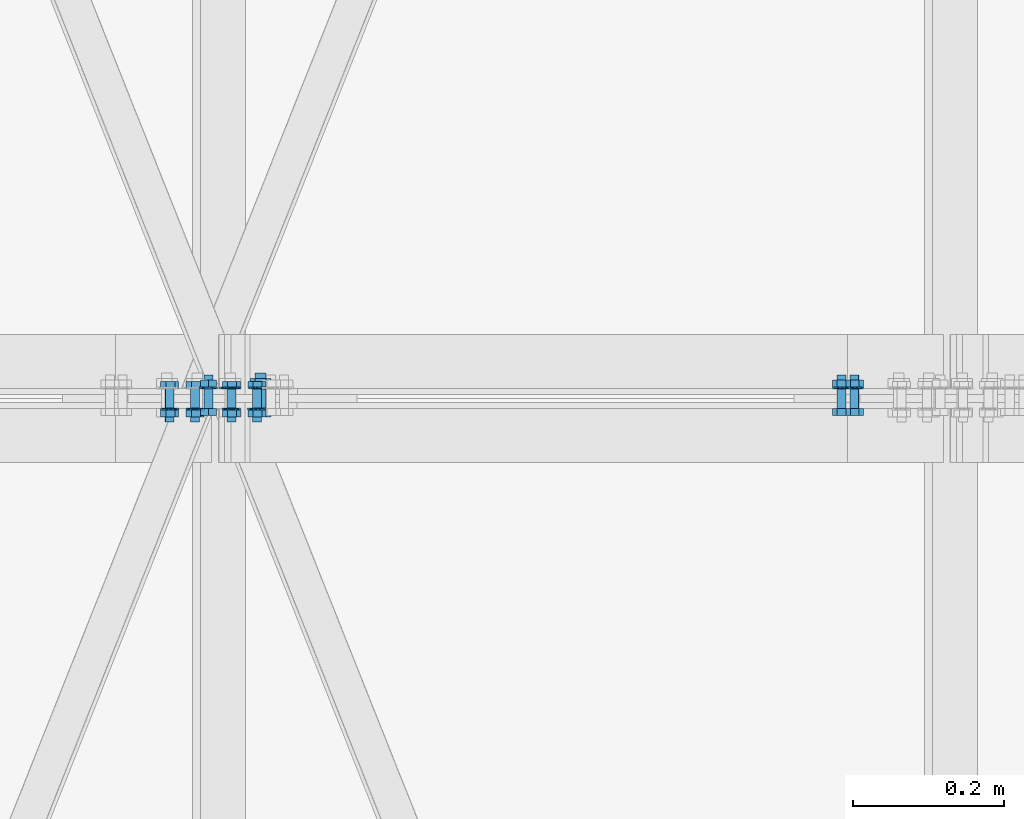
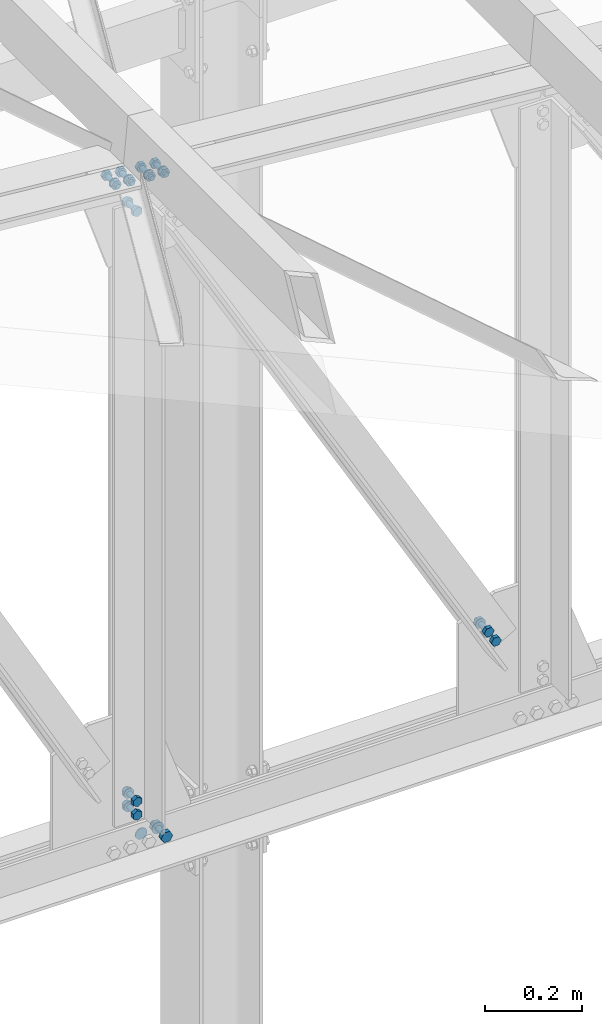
# One storey, part 147 of 251: 40 mechanical fasteners.
"""IFC4 building model written with IfcOpenShell, lengths in metres."""

from ifc_helpers import new_model, si_unit, frame, origin_with_axes, place, context, project, spatial, polyline, outline, extrude, type_object, element, save


model = new_model("IFC4")

# Units and contexts
model_context = context("Model", 3, precision=1e-05, world=origin_with_axes())
ifc_project = project(units=[si_unit("LENGTHUNIT", "METRE"), si_unit("AREAUNIT", "SQUARE_METRE"), si_unit("VOLUMEUNIT", "CUBIC_METRE"), si_unit("MASSUNIT", "GRAM", prefix="KILO"), si_unit("TIMEUNIT", "SECOND"), si_unit("PLANEANGLEUNIT", "RADIAN"), si_unit("SOLIDANGLEUNIT", "STERADIAN"), si_unit("THERMODYNAMICTEMPERATUREUNIT", "DEGREE_CELSIUS")], contexts=[model_context])

# Site, building, storey
placement_1 = place(None, origin_with_axes())
site = spatial("IfcSite", under=ifc_project, at=placement_1, Name="Italia", CompositionType="ELEMENT")
building = spatial("IfcBuilding", under=site, at=placement_1, Name="Deposito", CompositionType="ELEMENT")
storey = spatial("IfcBuildingStorey", under=building, at=placement_1, Name="Storey 0", CompositionType="ELEMENT", Elevation=0.0)

# Mechanical fasteners
mechanical_fastener_type_1 = type_object("IfcMechanicalFastenerType", Name="Reticolare 5", PredefinedType="BOLT")
placement_2 = place(placement_1, origin_with_axes())
mechanical_fastener_1_placement = place(placement_2, origin_with_axes())
element("IfcMechanicalFastener", 1, at=mechanical_fastener_1_placement, inside=storey, type_object=mechanical_fastener_type_1, Name="Reticolare 5", NominalDiameter=0.028, context=model_context, shape_type="SweptSolid", body=[
    extrude(outline(polyline([(0.0, 0.0), (-0.000476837, -0.00362349), (-0.00187588, -0.00699997), (-0.0041008, -0.00989962), (-0.00699997, -0.0121245), (-0.0103769, -0.0135231), (-0.0139999, -0.0139999), (-0.0176229, -0.0135231), (-0.0209999, -0.0121245), (-0.0238991, -0.00989962), (-0.026124, -0.00699997), (-0.027523, -0.00362349), (-0.0279999, 0.0), (-0.027523, 0.00362349), (-0.026124, 0.00699997), (-0.0238991, 0.00989962), (-0.0209999, 0.0121245), (-0.0176229, 0.0135231), (-0.0139999, 0.0139999), (-0.0103769, 0.0135231), (-0.00699997, 0.0121245), (-0.0041008, 0.00989962), (-0.00187588, 0.00699997), (-0.000476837, 0.00362349), (0.0, 0.0)])), frame((12.0664, 15.015, 5.009), z_axis=(0.0, -1.0, 0.0), x_axis=(1.0, 0.0, 0.0)), (0.0, 0.0, 1.0), 0.00200081),
])
mechanical_fastener_type_2 = type_object("IfcMechanicalFastenerType", Name="Reticolare 5", PredefinedType="BOLT")
mechanical_fastener_2_placement = place(placement_2, origin_with_axes())
element("IfcMechanicalFastener", 2, at=mechanical_fastener_2_placement, inside=storey, type_object=mechanical_fastener_type_2, Name="Reticolare 5", NominalDiameter=0.0139997, context=model_context, shape_type="SweptSolid", body=[
    extrude(outline(polyline([(0.0, 0.0), (-0.0139999, 0.0), (-0.0209999, 0.0121241), (-0.0139999, 0.0242486), (0.0, 0.0242486), (0.00699997, 0.0121241), (0.0, 0.0)])), frame((12.0994, 14.987, 4.99688), z_axis=(0.0, -1.0, 0.0), x_axis=(1.0, 0.0, 0.0)), (0.0, 0.0, 1.0), 0.0112009),
])
mechanical_fastener_type_3 = type_object("IfcMechanicalFastenerType", Name="Reticolare 5", PredefinedType="BOLT")
mechanical_fastener_3_placement = place(placement_2, origin_with_axes())
element("IfcMechanicalFastener", 3, at=mechanical_fastener_3_placement, inside=storey, type_object=mechanical_fastener_type_3, Name="Reticolare 5", NominalDiameter=0.014, context=model_context, shape_type="SweptSolid", body=[
    extrude(outline(polyline([(0.0, 0.0), (-0.000238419, -0.0018115), (-0.000937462, -0.00349998), (-0.0020504, -0.00494957), (-0.00349998, -0.00606203), (-0.00518799, -0.00676155), (-0.00699997, -0.00699997), (-0.00881195, -0.00676155), (-0.0105, -0.00606203), (-0.0119495, -0.00494957), (-0.0130625, -0.00349998), (-0.0137615, -0.0018115), (-0.0139999, 0.0), (-0.0137615, 0.0018115), (-0.0130625, 0.00349998), (-0.0119495, 0.00494957), (-0.0105, 0.00606203), (-0.00881195, 0.00676155), (-0.00699997, 0.00699997), (-0.00518799, 0.00676155), (-0.00349998, 0.00606203), (-0.0020504, 0.00494957), (-0.000937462, 0.00349998), (-0.000238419, 0.0018115), (0.0, 0.0)])), frame((12.0994, 15.034, 5.009), z_axis=(0.0, -1.0, 0.0), x_axis=(1.0, 0.0, 0.0)), (0.0, 0.0, 1.0), 0.0469999),
])
mechanical_fastener_type_4 = type_object("IfcMechanicalFastenerType", Name="Reticolare 5", PredefinedType="BOLT")
mechanical_fastener_4_placement = place(placement_2, origin_with_axes())
element("IfcMechanicalFastener", 4, at=mechanical_fastener_4_placement, inside=storey, type_object=mechanical_fastener_type_4, Name="Reticolare 5", NominalDiameter=0.0139997, context=model_context, shape_type="SweptSolid", body=[
    extrude(outline(polyline([(0.0, 0.0), (-0.0139999, 0.0), (-0.0209999, 0.0121241), (-0.0139999, 0.0242486), (0.0, 0.0242486), (0.00699997, 0.0121241), (0.0, 0.0)])), frame((12.0994, 15.0262, 4.99688), z_axis=(0.0, -1.0, 0.0), x_axis=(1.0, 0.0, 0.0)), (0.0, 0.0, 1.0), 0.0112),
])
mechanical_fastener_type_5 = type_object("IfcMechanicalFastenerType", Name="Reticolare 5", PredefinedType="BOLT")
mechanical_fastener_5_placement = place(placement_2, origin_with_axes())
element("IfcMechanicalFastener", 5, at=mechanical_fastener_5_placement, inside=storey, type_object=mechanical_fastener_type_5, Name="Reticolare 5", NominalDiameter=0.028, context=model_context, shape_type="SweptSolid", body=[
    extrude(outline(polyline([(0.0, 0.0), (-0.000476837, -0.00362349), (-0.00187588, -0.00699997), (-0.0041008, -0.00989962), (-0.00699997, -0.0121245), (-0.0103769, -0.0135231), (-0.0139999, -0.0139999), (-0.0176229, -0.0135231), (-0.0209999, -0.0121245), (-0.0238991, -0.00989962), (-0.026124, -0.00699997), (-0.027523, -0.00362349), (-0.0279999, 0.0), (-0.027523, 0.00362349), (-0.026124, 0.00699997), (-0.0238991, 0.00989962), (-0.0209999, 0.0121245), (-0.0176229, 0.0135231), (-0.0139999, 0.0139999), (-0.0103769, 0.0135231), (-0.00699997, 0.0121245), (-0.0041008, 0.00989962), (-0.00187588, 0.00699997), (-0.000476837, 0.00362349), (0.0, 0.0)])), frame((12.1064, 15.015, 5.009), z_axis=(0.0, -1.0, 0.0), x_axis=(1.0, 0.0, 0.0)), (0.0, 0.0, 1.0), 0.00200081),
])
mechanical_fastener_type_6 = type_object("IfcMechanicalFastenerType", Name="Reticolare 5", PredefinedType="BOLT")
mechanical_fastener_6_placement = place(placement_2, origin_with_axes())
element("IfcMechanicalFastener", 6, at=mechanical_fastener_6_placement, inside=storey, type_object=mechanical_fastener_type_6, Name="Reticolare 5", NominalDiameter=0.0119999, context=model_context, shape_type="SweptSolid", body=[
    extrude(outline(polyline([(0.0, 0.0), (0.0, -0.0120001), (-0.0103922, -0.0180001), (-0.0207844, -0.0120001), (-0.0207844, 0.0), (-0.0103922, 0.00600004), (0.0, 0.0)])), frame((12.0338, 14.987, 5.09253), z_axis=(0.0, -1.0, 0.0), x_axis=(1.0, 0.0, 0.0)), (0.0, 0.0, 1.0), 0.00960064),
])
mechanical_fastener_type_7 = type_object("IfcMechanicalFastenerType", Name="Reticolare 5", PredefinedType="BOLT")
mechanical_fastener_7_placement = place(placement_2, origin_with_axes())
element("IfcMechanicalFastener", 7, at=mechanical_fastener_7_placement, inside=storey, type_object=mechanical_fastener_type_7, Name="Reticolare 5", NominalDiameter=0.012, context=model_context, shape_type="SweptSolid", body=[
    extrude(outline(polyline([(0.0, 0.0), (-0.000204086, -0.00155306), (-0.000802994, -0.00299978), (-0.00175667, -0.00424242), (-0.00299931, -0.00519609), (-0.00444698, -0.00579548), (-0.00599957, -0.00600004), (-0.00755215, -0.00579548), (-0.00899982, -0.00519609), (-0.0102425, -0.00424242), (-0.0111961, -0.00299978), (-0.011795, -0.00155306), (-0.0119991, 0.0), (-0.011795, 0.00155306), (-0.0111961, 0.00299978), (-0.0102425, 0.00424242), (-0.00899982, 0.00519609), (-0.00755215, 0.00579548), (-0.00599957, 0.00600004), (-0.00444698, 0.00579548), (-0.00299931, 0.00519609), (-0.00175667, 0.00424242), (-0.000802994, 0.00299978), (-0.000204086, 0.00155306), (0.0, 0.0)])), frame((12.0294, 15.031, 5.08653), z_axis=(0.0, -1.0, 0.0), x_axis=(1.0, 0.0, 0.0)), (0.0, 0.0, 1.0), 0.0439997),
])
mechanical_fastener_type_8 = type_object("IfcMechanicalFastenerType", Name="Reticolare 5", PredefinedType="BOLT")
mechanical_fastener_8_placement = place(placement_2, origin_with_axes())
element("IfcMechanicalFastener", 8, at=mechanical_fastener_8_placement, inside=storey, type_object=mechanical_fastener_type_8, Name="Reticolare 5", NominalDiameter=0.0119999, context=model_context, shape_type="SweptSolid", body=[
    extrude(outline(polyline([(0.0, 0.0), (0.0, -0.0120001), (-0.0103922, -0.0180001), (-0.0207844, -0.0120001), (-0.0207844, 0.0), (-0.0103922, 0.00600004), (0.0, 0.0)])), frame((12.0338, 15.0246, 5.09253), z_axis=(0.0, -1.0, 0.0), x_axis=(1.0, 0.0, 0.0)), (0.0, 0.0, 1.0), 0.00959969),
])
mechanical_fastener_type_9 = type_object("IfcMechanicalFastenerType", Name="Reticolare 5", PredefinedType="BOLT")
mechanical_fastener_9_placement = place(placement_2, origin_with_axes())
element("IfcMechanicalFastener", 9, at=mechanical_fastener_9_placement, inside=storey, type_object=mechanical_fastener_type_9, Name="Reticolare 5", NominalDiameter=0.024, context=model_context, shape_type="SweptSolid", body=[
    extrude(outline(polyline([(0.0, 0.0), (-0.000409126, -0.00310564), (-0.00160789, -0.00600004), (-0.00351524, -0.00848532), (-0.00600052, -0.0103922), (-0.00889397, -0.011591), (-0.0120001, -0.0120001), (-0.0151062, -0.011591), (-0.0179996, -0.0103922), (-0.0204849, -0.00848532), (-0.0223923, -0.00600004), (-0.023591, -0.00310564), (-0.0240002, 0.0), (-0.023591, 0.00310564), (-0.0223923, 0.00600004), (-0.0204849, 0.00848532), (-0.0179996, 0.0103922), (-0.0151062, 0.011591), (-0.0120001, 0.0120001), (-0.00889397, 0.011591), (-0.00600052, 0.0103922), (-0.00351524, 0.00848532), (-0.00160789, 0.00600004), (-0.000409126, 0.00310564), (0.0, 0.0)])), frame((12.0354, 15.015, 5.08653), z_axis=(0.0, -1.0, 0.0), x_axis=(1.0, 0.0, 0.0)), (0.0, 0.0, 1.0), 0.00200081),
])
mechanical_fastener_type_10 = type_object("IfcMechanicalFastenerType", Name="Reticolare 5", PredefinedType="BOLT")
mechanical_fastener_10_placement = place(placement_2, origin_with_axes())
element("IfcMechanicalFastener", 10, at=mechanical_fastener_10_placement, inside=storey, type_object=mechanical_fastener_type_10, Name="Reticolare 5", NominalDiameter=0.0119999, context=model_context, shape_type="SweptSolid", body=[
    extrude(outline(polyline([(0.0, 0.0), (0.0, -0.0120001), (-0.0103922, -0.0180001), (-0.0207844, -0.0120001), (-0.0207844, 0.0), (-0.0103922, 0.00600004), (0.0, 0.0)])), frame((12.0338, 14.987, 5.12653), z_axis=(0.0, -1.0, 0.0), x_axis=(1.0, 0.0, 0.0)), (0.0, 0.0, 1.0), 0.00960064),
])
mechanical_fastener_type_11 = type_object("IfcMechanicalFastenerType", Name="Reticolare 5", PredefinedType="BOLT")
mechanical_fastener_11_placement = place(placement_2, origin_with_axes())
element("IfcMechanicalFastener", 11, at=mechanical_fastener_11_placement, inside=storey, type_object=mechanical_fastener_type_11, Name="Reticolare 5", NominalDiameter=0.012, context=model_context, shape_type="SweptSolid", body=[
    extrude(outline(polyline([(0.0, 0.0), (-0.000204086, -0.00155306), (-0.000802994, -0.00299978), (-0.00175667, -0.00424242), (-0.00299931, -0.00519609), (-0.00444698, -0.00579548), (-0.00599957, -0.00600004), (-0.00755215, -0.00579548), (-0.00899982, -0.00519609), (-0.0102425, -0.00424242), (-0.0111961, -0.00299978), (-0.011795, -0.00155306), (-0.0119991, 0.0), (-0.011795, 0.00155306), (-0.0111961, 0.00299978), (-0.0102425, 0.00424242), (-0.00899982, 0.00519609), (-0.00755215, 0.00579548), (-0.00599957, 0.00600004), (-0.00444698, 0.00579548), (-0.00299931, 0.00519609), (-0.00175667, 0.00424242), (-0.000802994, 0.00299978), (-0.000204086, 0.00155306), (0.0, 0.0)])), frame((12.0294, 15.031, 5.12053), z_axis=(0.0, -1.0, 0.0), x_axis=(1.0, 0.0, 0.0)), (0.0, 0.0, 1.0), 0.0439997),
])
mechanical_fastener_type_12 = type_object("IfcMechanicalFastenerType", Name="Reticolare 5", PredefinedType="BOLT")
mechanical_fastener_12_placement = place(placement_2, origin_with_axes())
element("IfcMechanicalFastener", 12, at=mechanical_fastener_12_placement, inside=storey, type_object=mechanical_fastener_type_12, Name="Reticolare 5", NominalDiameter=0.0119999, context=model_context, shape_type="SweptSolid", body=[
    extrude(outline(polyline([(0.0, 0.0), (0.0, -0.0120001), (-0.0103922, -0.0180001), (-0.0207844, -0.0120001), (-0.0207844, 0.0), (-0.0103922, 0.00600004), (0.0, 0.0)])), frame((12.0338, 15.0246, 5.12653), z_axis=(0.0, -1.0, 0.0), x_axis=(1.0, 0.0, 0.0)), (0.0, 0.0, 1.0), 0.00959969),
])
mechanical_fastener_type_13 = type_object("IfcMechanicalFastenerType", Name="Reticolare 5", PredefinedType="BOLT")
mechanical_fastener_13_placement = place(placement_2, origin_with_axes())
element("IfcMechanicalFastener", 13, at=mechanical_fastener_13_placement, inside=storey, type_object=mechanical_fastener_type_13, Name="Reticolare 5", NominalDiameter=0.024, context=model_context, shape_type="SweptSolid", body=[
    extrude(outline(polyline([(0.0, 0.0), (-0.000409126, -0.00310564), (-0.00160789, -0.00600004), (-0.00351524, -0.00848532), (-0.00600052, -0.0103922), (-0.00889397, -0.011591), (-0.0120001, -0.0120001), (-0.0151062, -0.011591), (-0.0179996, -0.0103922), (-0.0204849, -0.00848532), (-0.0223923, -0.00600004), (-0.023591, -0.00310564), (-0.0240002, 0.0), (-0.023591, 0.00310564), (-0.0223923, 0.00600004), (-0.0204849, 0.00848532), (-0.0179996, 0.0103922), (-0.0151062, 0.011591), (-0.0120001, 0.0120001), (-0.00889397, 0.011591), (-0.00600052, 0.0103922), (-0.00351524, 0.00848532), (-0.00160789, 0.00600004), (-0.000409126, 0.00310564), (0.0, 0.0)])), frame((12.0354, 15.015, 5.12053), z_axis=(0.0, -1.0, 0.0), x_axis=(1.0, 0.0, 0.0)), (0.0, 0.0, 1.0), 0.00200081),
])
mechanical_fastener_type_14 = type_object("IfcMechanicalFastenerType", Name="Reticolare 5", PredefinedType="BOLT")
mechanical_fastener_14_placement = place(placement_2, origin_with_axes())
element("IfcMechanicalFastener", 14, at=mechanical_fastener_14_placement, inside=storey, type_object=mechanical_fastener_type_14, Name="Reticolare 5", NominalDiameter=0.0119993, context=model_context, shape_type="SweptSolid", body=[
    extrude(outline(polyline([(0.0, 0.0), (-0.00595284, 0.0104198), (9.53674e-05, 0.0207844), (0.0120945, 0.0207295), (0.0180473, 0.0103097), (0.0120001, -5.53131e-05), (0.0, 0.0)])), frame((12.8732, 14.987, 5.2152), z_axis=(0.0, -1.0, 0.0), x_axis=(1.0, 0.0, 0.0)), (0.0, 0.0, 1.0), 0.00960064),
])
mechanical_fastener_type_15 = type_object("IfcMechanicalFastenerType", Name="Reticolare 5", PredefinedType="BOLT")
mechanical_fastener_15_placement = place(placement_2, origin_with_axes())
element("IfcMechanicalFastener", 15, at=mechanical_fastener_15_placement, inside=storey, type_object=mechanical_fastener_type_15, Name="Reticolare 5", NominalDiameter=0.012, context=model_context, shape_type="SweptSolid", body=[
    extrude(outline(polyline([(0.0, 0.0), (-0.000204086, -0.00155306), (-0.000802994, -0.00299978), (-0.00175667, -0.00424242), (-0.00299931, -0.00519609), (-0.00444698, -0.00579548), (-0.00599957, -0.00600004), (-0.00755215, -0.00579548), (-0.00899982, -0.00519609), (-0.0102425, -0.00424242), (-0.0111961, -0.00299978), (-0.011795, -0.00155306), (-0.0119991, 0.0), (-0.011795, 0.00155306), (-0.0111961, 0.00299978), (-0.0102425, 0.00424242), (-0.00899982, 0.00519609), (-0.00755215, 0.00579548), (-0.00599957, 0.00600004), (-0.00444698, 0.00579548), (-0.00299931, 0.00519609), (-0.00175667, 0.00424242), (-0.000802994, 0.00299978), (-0.000204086, 0.00155306), (0.0, 0.0)])), frame((12.8852, 15.031, 5.22556), z_axis=(0.0, -1.0, 0.0), x_axis=(1.0, 0.0, 0.0)), (0.0, 0.0, 1.0), 0.0439997),
])
mechanical_fastener_type_16 = type_object("IfcMechanicalFastenerType", Name="Reticolare 5", PredefinedType="BOLT")
mechanical_fastener_16_placement = place(placement_2, origin_with_axes())
element("IfcMechanicalFastener", 16, at=mechanical_fastener_16_placement, inside=storey, type_object=mechanical_fastener_type_16, Name="Reticolare 5", NominalDiameter=0.0119993, context=model_context, shape_type="SweptSolid", body=[
    extrude(outline(polyline([(0.0, 0.0), (-0.00595284, 0.0104198), (9.53674e-05, 0.0207844), (0.0120945, 0.0207295), (0.0180473, 0.0103097), (0.0120001, -5.53131e-05), (0.0, 0.0)])), frame((12.8732, 15.0246, 5.2152), z_axis=(0.0, -1.0, 0.0), x_axis=(1.0, 0.0, 0.0)), (0.0, 0.0, 1.0), 0.00959969),
])
mechanical_fastener_type_17 = type_object("IfcMechanicalFastenerType", Name="Reticolare 5", PredefinedType="BOLT")
mechanical_fastener_17_placement = place(placement_2, origin_with_axes())
element("IfcMechanicalFastener", 17, at=mechanical_fastener_17_placement, inside=storey, type_object=mechanical_fastener_type_17, Name="Reticolare 5", NominalDiameter=0.024, context=model_context, shape_type="SweptSolid", body=[
    extrude(outline(polyline([(0.0, 0.0), (-0.000409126, -0.00310564), (-0.00160789, -0.00600004), (-0.00351524, -0.00848532), (-0.00600052, -0.0103922), (-0.00889397, -0.011591), (-0.0120001, -0.0120001), (-0.0151062, -0.011591), (-0.0179996, -0.0103922), (-0.0204849, -0.00848532), (-0.0223923, -0.00600004), (-0.023591, -0.00310564), (-0.0240002, 0.0), (-0.023591, 0.00310564), (-0.0223923, 0.00600004), (-0.0204849, 0.00848532), (-0.0179996, 0.0103922), (-0.0151062, 0.011591), (-0.0120001, 0.0120001), (-0.00889397, 0.011591), (-0.00600052, 0.0103922), (-0.00351524, 0.00848532), (-0.00160789, 0.00600004), (-0.000409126, 0.00310564), (0.0, 0.0)])), frame((12.8912, 15.015, 5.22556), z_axis=(0.0, -1.0, 0.0), x_axis=(1.0, 0.0, 0.0)), (0.0, 0.0, 1.0), 0.00200081),
])
mechanical_fastener_type_18 = type_object("IfcMechanicalFastenerType", Name="Reticolare 5", PredefinedType="BOLT")
mechanical_fastener_18_placement = place(placement_2, origin_with_axes())
element("IfcMechanicalFastener", 18, at=mechanical_fastener_18_placement, inside=storey, type_object=mechanical_fastener_type_18, Name="Reticolare 5", NominalDiameter=0.0119993, context=model_context, shape_type="SweptSolid", body=[
    extrude(outline(polyline([(0.0, 0.0), (-0.00595284, 0.0104198), (9.53674e-05, 0.0207844), (0.0120945, 0.0207295), (0.0180473, 0.0103097), (0.0120001, -5.48363e-05), (0.0, 0.0)])), frame((12.8563, 14.987, 5.24472), z_axis=(0.0, -1.0, 0.0), x_axis=(1.0, 0.0, 0.0)), (0.0, 0.0, 1.0), 0.00960064),
])
mechanical_fastener_type_19 = type_object("IfcMechanicalFastenerType", Name="Reticolare 5", PredefinedType="BOLT")
mechanical_fastener_19_placement = place(placement_2, origin_with_axes())
element("IfcMechanicalFastener", 19, at=mechanical_fastener_19_placement, inside=storey, type_object=mechanical_fastener_type_19, Name="Reticolare 5", NominalDiameter=0.012, context=model_context, shape_type="SweptSolid", body=[
    extrude(outline(polyline([(0.0, 0.0), (-0.000204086, -0.00155306), (-0.000802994, -0.00299978), (-0.00175667, -0.00424242), (-0.00299931, -0.00519609), (-0.00444698, -0.00579548), (-0.00599957, -0.00600004), (-0.00755215, -0.00579548), (-0.00899982, -0.00519609), (-0.0102425, -0.00424242), (-0.0111961, -0.00299978), (-0.011795, -0.00155306), (-0.0119991, 0.0), (-0.011795, 0.00155306), (-0.0111961, 0.00299978), (-0.0102425, 0.00424242), (-0.00899982, 0.00519609), (-0.00755215, 0.00579548), (-0.00599957, 0.00600004), (-0.00444698, 0.00579548), (-0.00299931, 0.00519609), (-0.00175667, 0.00424242), (-0.000802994, 0.00299978), (-0.000204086, 0.00155306), (0.0, 0.0)])), frame((12.8683, 15.031, 5.25509), z_axis=(0.0, -1.0, 0.0), x_axis=(1.0, 0.0, 0.0)), (0.0, 0.0, 1.0), 0.0439997),
])
mechanical_fastener_type_20 = type_object("IfcMechanicalFastenerType", Name="Reticolare 5", PredefinedType="BOLT")
mechanical_fastener_20_placement = place(placement_2, origin_with_axes())
element("IfcMechanicalFastener", 20, at=mechanical_fastener_20_placement, inside=storey, type_object=mechanical_fastener_type_20, Name="Reticolare 5", NominalDiameter=0.0119993, context=model_context, shape_type="SweptSolid", body=[
    extrude(outline(polyline([(0.0, 0.0), (-0.00595284, 0.0104198), (9.53674e-05, 0.0207844), (0.0120945, 0.0207295), (0.0180473, 0.0103097), (0.0120001, -5.48363e-05), (0.0, 0.0)])), frame((12.8563, 15.0246, 5.24472), z_axis=(0.0, -1.0, 0.0), x_axis=(1.0, 0.0, 0.0)), (0.0, 0.0, 1.0), 0.00959969),
])
mechanical_fastener_type_21 = type_object("IfcMechanicalFastenerType", Name="Reticolare 5", PredefinedType="BOLT")
mechanical_fastener_21_placement = place(placement_2, origin_with_axes())
element("IfcMechanicalFastener", 21, at=mechanical_fastener_21_placement, inside=storey, type_object=mechanical_fastener_type_21, Name="Reticolare 5", NominalDiameter=0.024, context=model_context, shape_type="SweptSolid", body=[
    extrude(outline(polyline([(0.0, 0.0), (-0.000409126, -0.00310564), (-0.00160789, -0.00600004), (-0.00351524, -0.00848532), (-0.00600052, -0.0103922), (-0.00889397, -0.011591), (-0.0120001, -0.0120001), (-0.0151062, -0.011591), (-0.0179996, -0.0103922), (-0.0204849, -0.00848532), (-0.0223923, -0.00600004), (-0.023591, -0.00310564), (-0.0240002, 0.0), (-0.023591, 0.00310564), (-0.0223923, 0.00600004), (-0.0204849, 0.00848532), (-0.0179996, 0.0103922), (-0.0151062, 0.011591), (-0.0120001, 0.0120001), (-0.00889397, 0.011591), (-0.00600052, 0.0103922), (-0.00351524, 0.00848532), (-0.00160789, 0.00600004), (-0.000409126, 0.00310564), (0.0, 0.0)])), frame((12.8743, 15.015, 5.25509), z_axis=(0.0, -1.0, 0.0), x_axis=(1.0, 0.0, 0.0)), (0.0, 0.0, 1.0), 0.00200081),
])
mechanical_fastener_type_22 = type_object("IfcMechanicalFastenerType", Name="Reticolare 5", PredefinedType="BOLT")
mechanical_fastener_22_placement = place(placement_2, origin_with_axes())
element("IfcMechanicalFastener", 22, at=mechanical_fastener_22_placement, inside=storey, type_object=mechanical_fastener_type_22, Name="Reticolare 5", NominalDiameter=0.0119996, context=model_context, shape_type="SweptSolid", body=[
    extrude(outline(polyline([(0.0, 0.0), (0.0119543, 0.00104618), (0.018837, -0.00878382), (0.0137653, -0.0196595), (0.00181103, -0.0207052), (-0.00507164, -0.0108757), (0.0, 0.0)])), frame((12.0128, 15.013, 6.7022), z_axis=(0.0, 1.0, 0.0), x_axis=(-1.0, 0.0, 0.0)), (0.0, 0.0, 1.0), 0.00960064),
])
mechanical_fastener_type_23 = type_object("IfcMechanicalFastenerType", Name="Reticolare 5", PredefinedType="BOLT")
mechanical_fastener_23_placement = place(placement_2, origin_with_axes())
element("IfcMechanicalFastener", 23, at=mechanical_fastener_23_placement, inside=storey, type_object=mechanical_fastener_type_23, Name="Reticolare 5", NominalDiameter=0.012, context=model_context, shape_type="SweptSolid", body=[
    extrude(outline(polyline([(0.0, 0.0), (-0.000204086, -0.00155306), (-0.000802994, -0.00299978), (-0.00175667, -0.00424242), (-0.00299931, -0.00519609), (-0.00444698, -0.00579548), (-0.00599957, -0.00600004), (-0.00755215, -0.00579548), (-0.00899982, -0.00519609), (-0.0102425, -0.00424242), (-0.0111961, -0.00299978), (-0.011795, -0.00155306), (-0.0119991, 0.0), (-0.011795, 0.00155306), (-0.0111961, 0.00299978), (-0.0102425, 0.00424242), (-0.00899982, 0.00519609), (-0.00755215, 0.00579548), (-0.00599957, 0.00600004), (-0.00444698, 0.00579548), (-0.00299931, 0.00519609), (-0.00175667, 0.00424242), (-0.000802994, 0.00299978), (-0.000204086, 0.00155306), (0.0, 0.0)])), frame((11.9999, 14.969, 6.69237), z_axis=(0.0, 1.0, 0.0), x_axis=(-1.0, 0.0, 0.0)), (0.0, 0.0, 1.0), 0.0439997),
])
mechanical_fastener_type_24 = type_object("IfcMechanicalFastenerType", Name="Reticolare 5", PredefinedType="BOLT")
mechanical_fastener_24_placement = place(placement_2, origin_with_axes())
element("IfcMechanicalFastener", 24, at=mechanical_fastener_24_placement, inside=storey, type_object=mechanical_fastener_type_24, Name="Reticolare 5", NominalDiameter=0.0119996, context=model_context, shape_type="SweptSolid", body=[
    extrude(outline(polyline([(0.0, 0.0), (0.0119543, 0.00104618), (0.018837, -0.00878382), (0.0137653, -0.0196595), (0.00181103, -0.0207052), (-0.00507164, -0.0108757), (0.0, 0.0)])), frame((12.0128, 14.9754, 6.7022), z_axis=(0.0, 1.0, 0.0), x_axis=(-1.0, 0.0, 0.0)), (0.0, 0.0, 1.0), 0.00959969),
])
mechanical_fastener_type_25 = type_object("IfcMechanicalFastenerType", Name="Reticolare 5", PredefinedType="BOLT")
mechanical_fastener_25_placement = place(placement_2, origin_with_axes())
element("IfcMechanicalFastener", 25, at=mechanical_fastener_25_placement, inside=storey, type_object=mechanical_fastener_type_25, Name="Reticolare 5", NominalDiameter=0.024, context=model_context, shape_type="SweptSolid", body=[
    extrude(outline(polyline([(0.0, 0.0), (-0.000409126, -0.00310564), (-0.00160789, -0.00600004), (-0.00351524, -0.00848532), (-0.00600052, -0.0103922), (-0.00889397, -0.011591), (-0.0120001, -0.0120001), (-0.0151062, -0.011591), (-0.0179996, -0.0103922), (-0.0204849, -0.00848532), (-0.0223923, -0.00600004), (-0.023591, -0.00310564), (-0.0240002, 0.0), (-0.023591, 0.00310564), (-0.0223923, 0.00600004), (-0.0204849, 0.00848532), (-0.0179996, 0.0103922), (-0.0151062, 0.011591), (-0.0120001, 0.0120001), (-0.00889397, 0.011591), (-0.00600052, 0.0103922), (-0.00351524, 0.00848532), (-0.00160789, 0.00600004), (-0.000409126, 0.00310564), (0.0, 0.0)])), frame((11.9939, 14.985, 6.69237), z_axis=(0.0, 1.0, 0.0), x_axis=(-1.0, 0.0, 0.0)), (0.0, 0.0, 1.0), 0.00200081),
])
mechanical_fastener_type_26 = type_object("IfcMechanicalFastenerType", Name="Reticolare 5", PredefinedType="BOLT")
mechanical_fastener_26_placement = place(placement_2, origin_with_axes())
element("IfcMechanicalFastener", 26, at=mechanical_fastener_26_placement, inside=storey, type_object=mechanical_fastener_type_26, Name="Reticolare 5", NominalDiameter=0.012, context=model_context, shape_type="SweptSolid", body=[
    extrude(outline(polyline([(0.0, 0.0), (0.0119543, 0.0010457), (0.018837, -0.00878429), (0.0137653, -0.01966), (0.00181103, -0.0207057), (-0.00507164, -0.0108757), (0.0, 0.0)])), frame((11.9789, 15.013, 6.70516), z_axis=(0.0, 1.0, 0.0), x_axis=(-1.0, 0.0, 0.0)), (0.0, 0.0, 1.0), 0.00960064),
])
mechanical_fastener_type_27 = type_object("IfcMechanicalFastenerType", Name="Reticolare 5", PredefinedType="BOLT")
mechanical_fastener_27_placement = place(placement_2, origin_with_axes())
element("IfcMechanicalFastener", 27, at=mechanical_fastener_27_placement, inside=storey, type_object=mechanical_fastener_type_27, Name="Reticolare 5", NominalDiameter=0.012, context=model_context, shape_type="SweptSolid", body=[
    extrude(outline(polyline([(0.0, 0.0), (-0.000204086, -0.00155306), (-0.000802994, -0.00299978), (-0.00175667, -0.00424242), (-0.00299931, -0.00519609), (-0.00444698, -0.00579548), (-0.00599957, -0.00600004), (-0.00755215, -0.00579548), (-0.00899982, -0.00519609), (-0.0102425, -0.00424242), (-0.0111961, -0.00299978), (-0.011795, -0.00155306), (-0.0119991, 0.0), (-0.011795, 0.00155306), (-0.0111961, 0.00299978), (-0.0102425, 0.00424242), (-0.00899982, 0.00519609), (-0.00755215, 0.00579548), (-0.00599957, 0.00600004), (-0.00444698, 0.00579548), (-0.00299931, 0.00519609), (-0.00175667, 0.00424242), (-0.000802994, 0.00299978), (-0.000204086, 0.00155306), (0.0, 0.0)])), frame((11.966, 14.969, 6.69533), z_axis=(0.0, 1.0, 0.0), x_axis=(-1.0, 0.0, 0.0)), (0.0, 0.0, 1.0), 0.0439997),
])
mechanical_fastener_type_28 = type_object("IfcMechanicalFastenerType", Name="Reticolare 5", PredefinedType="BOLT")
mechanical_fastener_28_placement = place(placement_2, origin_with_axes())
element("IfcMechanicalFastener", 28, at=mechanical_fastener_28_placement, inside=storey, type_object=mechanical_fastener_type_28, Name="Reticolare 5", NominalDiameter=0.012, context=model_context, shape_type="SweptSolid", body=[
    extrude(outline(polyline([(0.0, 0.0), (0.0119543, 0.0010457), (0.018837, -0.00878429), (0.0137653, -0.01966), (0.00181103, -0.0207057), (-0.00507164, -0.0108757), (0.0, 0.0)])), frame((11.9789, 14.9754, 6.70516), z_axis=(0.0, 1.0, 0.0), x_axis=(-1.0, 0.0, 0.0)), (0.0, 0.0, 1.0), 0.00959969),
])
mechanical_fastener_type_29 = type_object("IfcMechanicalFastenerType", Name="Reticolare 5", PredefinedType="BOLT")
mechanical_fastener_29_placement = place(placement_2, origin_with_axes())
element("IfcMechanicalFastener", 29, at=mechanical_fastener_29_placement, inside=storey, type_object=mechanical_fastener_type_29, Name="Reticolare 5", NominalDiameter=0.024, context=model_context, shape_type="SweptSolid", body=[
    extrude(outline(polyline([(0.0, 0.0), (-0.000409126, -0.00310564), (-0.00160789, -0.00600004), (-0.00351524, -0.00848532), (-0.00600052, -0.0103922), (-0.00889397, -0.011591), (-0.0120001, -0.0120001), (-0.0151062, -0.011591), (-0.0179996, -0.0103922), (-0.0204849, -0.00848532), (-0.0223923, -0.00600004), (-0.023591, -0.00310564), (-0.0240002, 0.0), (-0.023591, 0.00310564), (-0.0223923, 0.00600004), (-0.0204849, 0.00848532), (-0.0179996, 0.0103922), (-0.0151062, 0.011591), (-0.0120001, 0.0120001), (-0.00889397, 0.011591), (-0.00600052, 0.0103922), (-0.00351524, 0.00848532), (-0.00160789, 0.00600004), (-0.000409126, 0.00310564), (0.0, 0.0)])), frame((11.96, 14.985, 6.69533), z_axis=(0.0, 1.0, 0.0), x_axis=(-1.0, 0.0, 0.0)), (0.0, 0.0, 1.0), 0.00200081),
])
mechanical_fastener_type_30 = type_object("IfcMechanicalFastenerType", Name="Reticolare 5", PredefinedType="BOLT")
mechanical_fastener_30_placement = place(placement_2, origin_with_axes())
element("IfcMechanicalFastener", 30, at=mechanical_fastener_30_placement, inside=storey, type_object=mechanical_fastener_type_30, Name="Reticolare 5", NominalDiameter=0.0119996, context=model_context, shape_type="SweptSolid", body=[
    extrude(outline(polyline([(0.0, 0.0), (0.0119524, 0.00107431), (0.0188589, -0.00873899), (0.013813, -0.0196271), (0.00186157, -0.0207014), (-0.00504494, -0.0108881), (0.0, 0.0)])), frame((12.0607, 15.013, 6.69794), z_axis=(0.0, 1.0, 0.0), x_axis=(-1.0, 0.0, 0.0)), (0.0, 0.0, 1.0), 0.00960064),
])
mechanical_fastener_type_31 = type_object("IfcMechanicalFastenerType", Name="Reticolare 5", PredefinedType="BOLT")
mechanical_fastener_31_placement = place(placement_2, origin_with_axes())
element("IfcMechanicalFastener", 31, at=mechanical_fastener_31_placement, inside=storey, type_object=mechanical_fastener_type_31, Name="Reticolare 5", NominalDiameter=0.012, context=model_context, shape_type="SweptSolid", body=[
    extrude(outline(polyline([(0.0, 0.0), (-0.000204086, -0.00155306), (-0.000802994, -0.00299978), (-0.00175667, -0.00424242), (-0.00299931, -0.00519609), (-0.00444698, -0.00579548), (-0.00599957, -0.00600004), (-0.00755215, -0.00579548), (-0.00899982, -0.00519609), (-0.0102425, -0.00424242), (-0.0111961, -0.00299978), (-0.011795, -0.00155306), (-0.0119991, 0.0), (-0.011795, 0.00155306), (-0.0111961, 0.00299978), (-0.0102425, 0.00424242), (-0.00899982, 0.00519609), (-0.00755215, 0.00579548), (-0.00599957, 0.00600004), (-0.00444698, 0.00579548), (-0.00299931, 0.00519609), (-0.00175667, 0.00424242), (-0.000802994, 0.00299978), (-0.000204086, 0.00155306), (0.0, 0.0)])), frame((12.0477, 14.969, 6.68812), z_axis=(0.0, 1.0, 0.0), x_axis=(-1.0, 0.0, 0.0)), (0.0, 0.0, 1.0), 0.0439997),
])
mechanical_fastener_type_32 = type_object("IfcMechanicalFastenerType", Name="Reticolare 5", PredefinedType="BOLT")
mechanical_fastener_32_placement = place(placement_2, origin_with_axes())
element("IfcMechanicalFastener", 32, at=mechanical_fastener_32_placement, inside=storey, type_object=mechanical_fastener_type_32, Name="Reticolare 5", NominalDiameter=0.0119996, context=model_context, shape_type="SweptSolid", body=[
    extrude(outline(polyline([(0.0, 0.0), (0.0119524, 0.00107431), (0.0188589, -0.00873899), (0.013813, -0.0196271), (0.00186157, -0.0207014), (-0.00504494, -0.0108881), (0.0, 0.0)])), frame((12.0607, 14.9754, 6.69794), z_axis=(0.0, 1.0, 0.0), x_axis=(-1.0, 0.0, 0.0)), (0.0, 0.0, 1.0), 0.00959969),
])
mechanical_fastener_type_33 = type_object("IfcMechanicalFastenerType", Name="Reticolare 5", PredefinedType="BOLT")
mechanical_fastener_33_placement = place(placement_2, origin_with_axes())
element("IfcMechanicalFastener", 33, at=mechanical_fastener_33_placement, inside=storey, type_object=mechanical_fastener_type_33, Name="Reticolare 5", NominalDiameter=0.024, context=model_context, shape_type="SweptSolid", body=[
    extrude(outline(polyline([(0.0, 0.0), (-0.000409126, -0.00310564), (-0.00160789, -0.00600004), (-0.00351524, -0.00848532), (-0.00600052, -0.0103922), (-0.00889397, -0.011591), (-0.0120001, -0.0120001), (-0.0151062, -0.011591), (-0.0179996, -0.0103922), (-0.0204849, -0.00848532), (-0.0223923, -0.00600004), (-0.023591, -0.00310564), (-0.0240002, 0.0), (-0.023591, 0.00310564), (-0.0223923, 0.00600004), (-0.0204849, 0.00848532), (-0.0179996, 0.0103922), (-0.0151062, 0.011591), (-0.0120001, 0.0120001), (-0.00889397, 0.011591), (-0.00600052, 0.0103922), (-0.00351524, 0.00848532), (-0.00160789, 0.00600004), (-0.000409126, 0.00310564), (0.0, 0.0)])), frame((12.0417, 14.985, 6.68812), z_axis=(0.0, 1.0, 0.0), x_axis=(-1.0, 0.0, 0.0)), (0.0, 0.0, 1.0), 0.00200081),
])
mechanical_fastener_type_34 = type_object("IfcMechanicalFastenerType", Name="Reticolare 5", PredefinedType="BOLT")
mechanical_fastener_34_placement = place(placement_2, origin_with_axes())
element("IfcMechanicalFastener", 34, at=mechanical_fastener_34_placement, inside=storey, type_object=mechanical_fastener_type_34, Name="Reticolare 5", NominalDiameter=0.0119996, context=model_context, shape_type="SweptSolid", body=[
    extrude(outline(polyline([(0.0, 0.0), (0.0119514, 0.00107431), (0.018858, -0.00873899), (0.013813, -0.0196271), (0.00186062, -0.0207014), (-0.00504589, -0.0108881), (0.0, 0.0)])), frame((12.0945, 15.013, 6.69489), z_axis=(0.0, 1.0, 0.0), x_axis=(-1.0, 0.0, 0.0)), (0.0, 0.0, 1.0), 0.00960064),
])
mechanical_fastener_type_35 = type_object("IfcMechanicalFastenerType", Name="Reticolare 5", PredefinedType="BOLT")
mechanical_fastener_35_placement = place(placement_2, origin_with_axes())
element("IfcMechanicalFastener", 35, at=mechanical_fastener_35_placement, inside=storey, type_object=mechanical_fastener_type_35, Name="Reticolare 5", NominalDiameter=0.012, context=model_context, shape_type="SweptSolid", body=[
    extrude(outline(polyline([(0.0, 0.0), (-0.000204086, -0.00155306), (-0.000802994, -0.00299978), (-0.00175667, -0.00424242), (-0.00299931, -0.00519609), (-0.00444698, -0.00579548), (-0.00599957, -0.00600004), (-0.00755215, -0.00579548), (-0.00899982, -0.00519609), (-0.0102425, -0.00424242), (-0.0111961, -0.00299978), (-0.011795, -0.00155306), (-0.0119991, 0.0), (-0.011795, 0.00155306), (-0.0111961, 0.00299978), (-0.0102425, 0.00424242), (-0.00899982, 0.00519609), (-0.00755215, 0.00579548), (-0.00599957, 0.00600004), (-0.00444698, 0.00579548), (-0.00299931, 0.00519609), (-0.00175667, 0.00424242), (-0.000802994, 0.00299978), (-0.000204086, 0.00155306), (0.0, 0.0)])), frame((12.0816, 14.969, 6.68508), z_axis=(0.0, 1.0, 0.0), x_axis=(-1.0, 0.0, 0.0)), (0.0, 0.0, 1.0), 0.0439997),
])
mechanical_fastener_type_36 = type_object("IfcMechanicalFastenerType", Name="Reticolare 5", PredefinedType="BOLT")
mechanical_fastener_36_placement = place(placement_2, origin_with_axes())
element("IfcMechanicalFastener", 36, at=mechanical_fastener_36_placement, inside=storey, type_object=mechanical_fastener_type_36, Name="Reticolare 5", NominalDiameter=0.0119996, context=model_context, shape_type="SweptSolid", body=[
    extrude(outline(polyline([(0.0, 0.0), (0.0119514, 0.00107431), (0.018858, -0.00873899), (0.013813, -0.0196271), (0.00186062, -0.0207014), (-0.00504589, -0.0108881), (0.0, 0.0)])), frame((12.0945, 14.9754, 6.69489), z_axis=(0.0, 1.0, 0.0), x_axis=(-1.0, 0.0, 0.0)), (0.0, 0.0, 1.0), 0.00959969),
])
mechanical_fastener_type_37 = type_object("IfcMechanicalFastenerType", Name="Reticolare 5", PredefinedType="BOLT")
mechanical_fastener_37_placement = place(placement_2, origin_with_axes())
element("IfcMechanicalFastener", 37, at=mechanical_fastener_37_placement, inside=storey, type_object=mechanical_fastener_type_37, Name="Reticolare 5", NominalDiameter=0.024, context=model_context, shape_type="SweptSolid", body=[
    extrude(outline(polyline([(0.0, 0.0), (-0.000409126, -0.00310564), (-0.00160789, -0.00600004), (-0.00351524, -0.00848532), (-0.00600052, -0.0103922), (-0.00889397, -0.011591), (-0.0120001, -0.0120001), (-0.0151062, -0.011591), (-0.0179996, -0.0103922), (-0.0204849, -0.00848532), (-0.0223923, -0.00600004), (-0.023591, -0.00310564), (-0.0240002, 0.0), (-0.023591, 0.00310564), (-0.0223923, 0.00600004), (-0.0204849, 0.00848532), (-0.0179996, 0.0103922), (-0.0151062, 0.011591), (-0.0120001, 0.0120001), (-0.00889397, 0.011591), (-0.00600052, 0.0103922), (-0.00351524, 0.00848532), (-0.00160789, 0.00600004), (-0.000409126, 0.00310564), (0.0, 0.0)])), frame((12.0756, 14.985, 6.68508), z_axis=(0.0, 1.0, 0.0), x_axis=(-1.0, 0.0, 0.0)), (0.0, 0.0, 1.0), 0.00200081),
])
mechanical_fastener_type_38 = type_object("IfcMechanicalFastenerType", Name="Reticolare 5", PredefinedType="BOLT")
mechanical_fastener_38_placement = place(placement_2, origin_with_axes())
element("IfcMechanicalFastener", 38, at=mechanical_fastener_38_placement, inside=storey, type_object=mechanical_fastener_type_38, Name="Reticolare 5", NominalDiameter=0.0119999, context=model_context, shape_type="SweptSolid", body=[
    extrude(outline(polyline([(0.0, 0.0), (0.0, -0.0120001), (-0.0103922, -0.0180001), (-0.0207844, -0.0120001), (-0.0207844, 0.0), (-0.0103922, 0.00600004), (0.0, 0.0)])), frame((12.0338, 14.987, 6.61442), z_axis=(0.0, -1.0, 0.0), x_axis=(1.0, 0.0, 0.0)), (0.0, 0.0, 1.0), 0.00960064),
])
mechanical_fastener_type_39 = type_object("IfcMechanicalFastenerType", Name="Reticolare 5", PredefinedType="BOLT")
mechanical_fastener_39_placement = place(placement_2, origin_with_axes())
element("IfcMechanicalFastener", 39, at=mechanical_fastener_39_placement, inside=storey, type_object=mechanical_fastener_type_39, Name="Reticolare 5", NominalDiameter=0.012, context=model_context, shape_type="SweptSolid", body=[
    extrude(outline(polyline([(0.0, 0.0), (-0.000204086, -0.00155306), (-0.000802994, -0.00299978), (-0.00175667, -0.00424242), (-0.00299931, -0.00519609), (-0.00444698, -0.00579548), (-0.00599957, -0.00600004), (-0.00755215, -0.00579548), (-0.00899982, -0.00519609), (-0.0102425, -0.00424242), (-0.0111961, -0.00299978), (-0.011795, -0.00155306), (-0.0119991, 0.0), (-0.011795, 0.00155306), (-0.0111961, 0.00299978), (-0.0102425, 0.00424242), (-0.00899982, 0.00519609), (-0.00755215, 0.00579548), (-0.00599957, 0.00600004), (-0.00444698, 0.00579548), (-0.00299931, 0.00519609), (-0.00175667, 0.00424242), (-0.000802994, 0.00299978), (-0.000204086, 0.00155306), (0.0, 0.0)])), frame((12.0294, 15.031, 6.60842), z_axis=(0.0, -1.0, 0.0), x_axis=(1.0, 0.0, 0.0)), (0.0, 0.0, 1.0), 0.0439997),
])
mechanical_fastener_type_40 = type_object("IfcMechanicalFastenerType", Name="Reticolare 5", PredefinedType="BOLT")
mechanical_fastener_40_placement = place(placement_2, origin_with_axes())
element("IfcMechanicalFastener", 40, at=mechanical_fastener_40_placement, inside=storey, type_object=mechanical_fastener_type_40, Name="Reticolare 5", NominalDiameter=0.0119999, context=model_context, shape_type="SweptSolid", body=[
    extrude(outline(polyline([(0.0, 0.0), (0.0, -0.0120001), (-0.0103922, -0.0180001), (-0.0207844, -0.0120001), (-0.0207844, 0.0), (-0.0103922, 0.00600004), (0.0, 0.0)])), frame((12.0338, 15.0246, 6.61442), z_axis=(0.0, -1.0, 0.0), x_axis=(1.0, 0.0, 0.0)), (0.0, 0.0, 1.0), 0.00959969),
])

save(model, "model.ifc")
